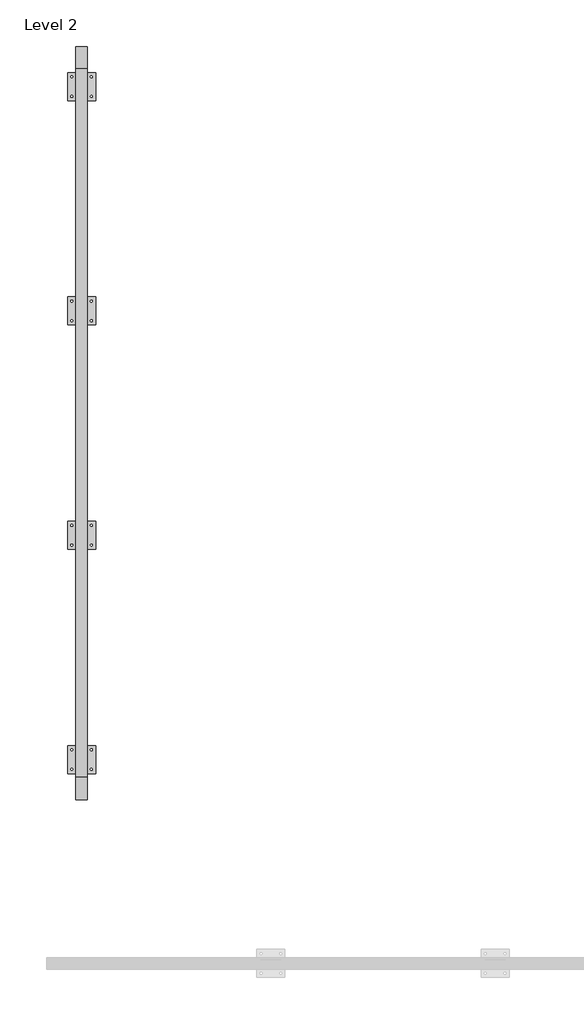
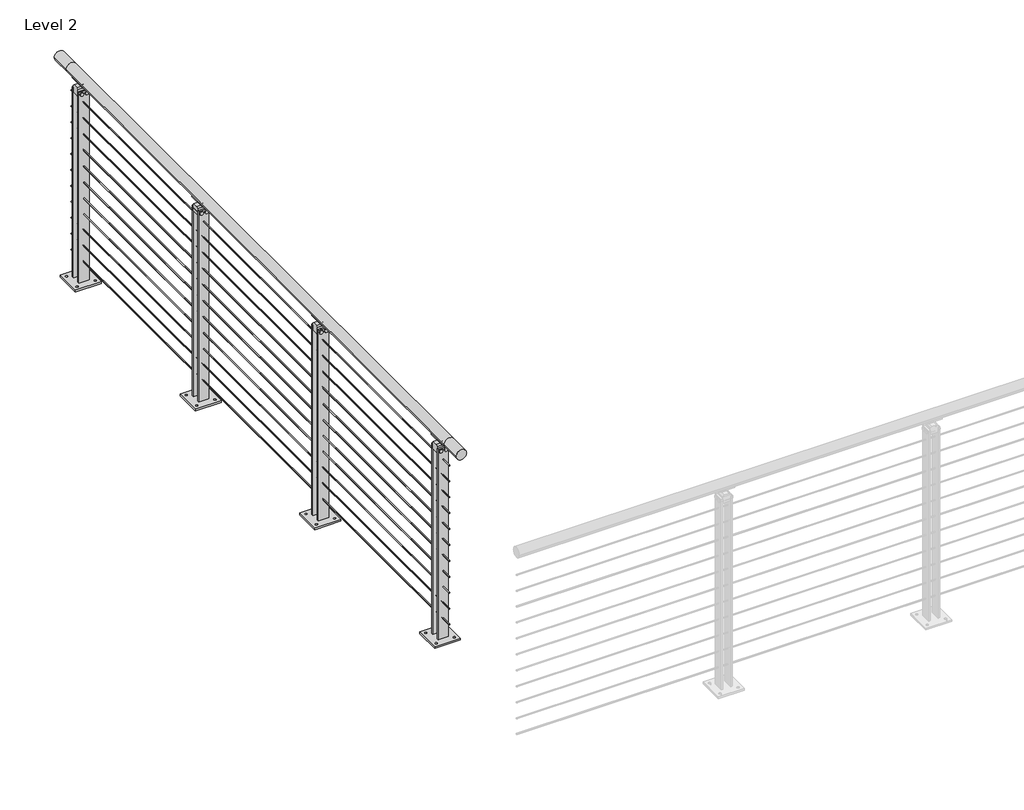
# One storey, part 20 of 31: 1 railing.
"""IFC4 building model written with IfcOpenShell, lengths in millimetres."""

from ifc_helpers import new_model, si_unit, point, frame, frame_2d, origin, place, context, project, spatial, polyline, circle_curve, trimmed, segment, composite_curve, outline, extrude, element, save
from ifc_brep_helpers import plane_surface, cylinder_surface, revolved_surface, advanced_brep

model = new_model("IFC4")

# Units and contexts
model_context = context("Model", 3, world=origin())
ifc_project = project(units=[si_unit("LENGTHUNIT", "METRE", prefix="MILLI")], contexts=[model_context])

# Site, building, storey
site = spatial("IfcSite", under=ifc_project)
building = spatial("IfcBuilding", under=site)
storey = spatial("IfcBuildingStorey", under=building, Name="Level 2", Elevation=3048.0)

# Railing
placement = place(None, origin())
element("IfcRailing", 1, ObjectType="VIVA-BLADE-Cable-Floor Mount-Straight", at=placement, inside=storey, context=model_context, shape_type="SolidModel", body=[
    advanced_brep(
    [(15627.1572927, -51362.5040223, 4102.1), (15576.3572927, -51362.5040223, 4102.1), (15627.1572927, -51260.9040223, 4102.1), (15576.3572927, -51260.9040223, 4102.1), (15627.1572927, -48053.4426165, 4102.1), (15576.3572927, -48053.4426165, 4102.1), (15627.1572927, -47951.8426165, 4102.1), (15576.3572927, -47951.8426165, 4102.1)],
    [
        (0, 1, circle_curve(frame((15601.7572927, -51362.5040223, 4102.1), z_axis=(0.0, -1.0, 0.0), x_axis=(-1.0, 0.0, 0.0)), 25.4)),
        (1, 0, circle_curve(frame((15601.7572927, -51362.5040223, 4102.1), z_axis=(0.0, -1.0, 0.0), x_axis=(-1.0, 0.0, 0.0)), 25.4)),
        (0, 2),
        (2, 3, circle_curve(frame((15601.7572927, -51260.9040223, 4102.1), z_axis=(0.0, -1.0, 0.0), x_axis=(-1.0, 0.0, 0.0)), 25.4)),
        (3, 1),
        (3, 2, circle_curve(frame((15601.7572927, -51260.9040223, 4102.1), z_axis=(0.0, -1.0, 0.0), x_axis=(-1.0, 0.0, 0.0)), 25.4)),
        (2, 4),
        (4, 5, circle_curve(frame((15601.7572927, -48053.4426165, 4102.1), z_axis=(0.0, -1.0, 0.0), x_axis=(-1.0, 0.0, 0.0)), 25.4)),
        (5, 3),
        (5, 4, circle_curve(frame((15601.7572927, -48053.4426165, 4102.1), z_axis=(0.0, -1.0, 0.0), x_axis=(-1.0, 0.0, 0.0)), 25.4)),
        (6, 7, circle_curve(frame((15601.7572927, -47951.8426165, 4102.1), z_axis=(0.0, 1.0, 0.0), x_axis=(-1.0, 0.0, 0.0)), 25.4)),
        (7, 6, circle_curve(frame((15601.7572927, -47951.8426165, 4102.1), z_axis=(0.0, 1.0, 0.0), x_axis=(-1.0, 0.0, 0.0)), 25.4)),
        (4, 6),
        (7, 5),
    ],
    [
        plane_surface(frame((15601.7572927, -51362.5040223, 4127.5), z_axis=(0.0, -1.0, 0.0), x_axis=(0.0, 0.0, 1.0))),
        cylinder_surface(frame((15601.7572927, -51362.5040223, 4102.1), z_axis=(0.0, -1.0, 0.0), x_axis=(-1.0, 0.0, 0.0)), 25.4),
        cylinder_surface(frame((15601.7572927, -51260.9040223, 4102.1), z_axis=(0.0, -1.0, 0.0), x_axis=(-1.0, 0.0, 0.0)), 25.4),
        plane_surface(frame((15601.7572927, -47951.8426165, 4127.5), z_axis=(0.0, 1.0, 0.0), x_axis=(0.0, 0.0, 1.0))),
        cylinder_surface(frame((15601.7572927, -48053.4426165, 4102.1), z_axis=(0.0, -1.0, 0.0), x_axis=(-1.0, 0.0, 0.0)), 25.4),
    ],
    [
        (0, [[1, 2]]),
        (1, [[-1, 3, 4, 5]]),
        (1, [[-2, -5, 6, -3]]),
        (2, [[-4, 7, 8, 9]]),
        (2, [[-6, -9, 10, -7]]),
        (3, [[11, 12]]),
        (4, [[-8, 13, -12, 14]]),
        (4, [[-10, -14, -11, -13]]),
    ],
),
    extrude(outline(composite_curve([segment(trimmed(circle_curve(frame_2d((3985.4124, 15601.7572927)), 2.3876), [point((3985.4124, 15604.1448927))], [point((3985.4124, 15599.3696927))], False, "CARTESIAN"), True, "CONTINUOUS"), segment(trimmed(circle_curve(frame_2d((3985.4124, 15601.7572927)), 2.3876), [point((3985.4124, 15599.3696927))], [point((3985.4124, 15604.1448927))], False, "CARTESIAN"), True, "CONTINUOUS")], self_intersect=False)), frame((0.0, -51260.9040223, 0.0), z_axis=(0.0, 1.0, 0.0), x_axis=(0.0, 0.0, 1.0)), (0.0, 0.0, 1.0), 3207.4614057),
    extrude(outline(composite_curve([segment(trimmed(circle_curve(frame_2d((3902.8624, 15601.7572927)), 2.3876), [point((3902.8624, 15604.1448927))], [point((3902.8624, 15599.3696927))], False, "CARTESIAN"), True, "CONTINUOUS"), segment(trimmed(circle_curve(frame_2d((3902.8624, 15601.7572927)), 2.3876), [point((3902.8624, 15599.3696927))], [point((3902.8624, 15604.1448927))], False, "CARTESIAN"), True, "CONTINUOUS")], self_intersect=False)), frame((0.0, -51260.9040223, 0.0), z_axis=(0.0, 1.0, 0.0), x_axis=(0.0, 0.0, 1.0)), (0.0, 0.0, 1.0), 3207.4614057),
    extrude(outline(composite_curve([segment(trimmed(circle_curve(frame_2d((3820.3124, 15601.7572927)), 2.3876), [point((3820.3124, 15604.1448927))], [point((3820.3124, 15599.3696927))], False, "CARTESIAN"), True, "CONTINUOUS"), segment(trimmed(circle_curve(frame_2d((3820.3124, 15601.7572927)), 2.3876), [point((3820.3124, 15599.3696927))], [point((3820.3124, 15604.1448927))], False, "CARTESIAN"), True, "CONTINUOUS")], self_intersect=False)), frame((0.0, -51260.9040223, 0.0), z_axis=(0.0, 1.0, 0.0), x_axis=(0.0, 0.0, 1.0)), (0.0, 0.0, 1.0), 3207.4614057),
    extrude(outline(composite_curve([segment(trimmed(circle_curve(frame_2d((3737.7624, 15601.7572927)), 2.3876), [point((3737.7624, 15604.1448927))], [point((3737.7624, 15599.3696927))], False, "CARTESIAN"), True, "CONTINUOUS"), segment(trimmed(circle_curve(frame_2d((3737.7624, 15601.7572927)), 2.3876), [point((3737.7624, 15599.3696927))], [point((3737.7624, 15604.1448927))], False, "CARTESIAN"), True, "CONTINUOUS")], self_intersect=False)), frame((0.0, -51260.9040223, 0.0), z_axis=(0.0, 1.0, 0.0), x_axis=(0.0, 0.0, 1.0)), (0.0, 0.0, 1.0), 3207.4614057),
    extrude(outline(composite_curve([segment(trimmed(circle_curve(frame_2d((3655.2124, 15601.7572927)), 2.3876), [point((3655.2124, 15604.1448927))], [point((3655.2124, 15599.3696927))], False, "CARTESIAN"), True, "CONTINUOUS"), segment(trimmed(circle_curve(frame_2d((3655.2124, 15601.7572927)), 2.3876), [point((3655.2124, 15599.3696927))], [point((3655.2124, 15604.1448927))], False, "CARTESIAN"), True, "CONTINUOUS")], self_intersect=False)), frame((0.0, -51260.9040223, 0.0), z_axis=(0.0, 1.0, 0.0), x_axis=(0.0, 0.0, 1.0)), (0.0, 0.0, 1.0), 3207.4614057),
    extrude(outline(composite_curve([segment(trimmed(circle_curve(frame_2d((3572.6624, 15601.7572927)), 2.3876), [point((3572.6624, 15604.1448927))], [point((3572.6624, 15599.3696927))], False, "CARTESIAN"), True, "CONTINUOUS"), segment(trimmed(circle_curve(frame_2d((3572.6624, 15601.7572927)), 2.3876), [point((3572.6624, 15599.3696927))], [point((3572.6624, 15604.1448927))], False, "CARTESIAN"), True, "CONTINUOUS")], self_intersect=False)), frame((0.0, -51260.9040223, 0.0), z_axis=(0.0, 1.0, 0.0), x_axis=(0.0, 0.0, 1.0)), (0.0, 0.0, 1.0), 3207.4614057),
    extrude(outline(composite_curve([segment(trimmed(circle_curve(frame_2d((3490.1124, 15601.7572927)), 2.3876), [point((3490.1124, 15604.1448927))], [point((3490.1124, 15599.3696927))], False, "CARTESIAN"), True, "CONTINUOUS"), segment(trimmed(circle_curve(frame_2d((3490.1124, 15601.7572927)), 2.3876), [point((3490.1124, 15599.3696927))], [point((3490.1124, 15604.1448927))], False, "CARTESIAN"), True, "CONTINUOUS")], self_intersect=False)), frame((0.0, -51260.9040223, 0.0), z_axis=(0.0, 1.0, 0.0), x_axis=(0.0, 0.0, 1.0)), (0.0, 0.0, 1.0), 3207.4614057),
    extrude(outline(composite_curve([segment(trimmed(circle_curve(frame_2d((3407.5624, 15601.7572927)), 2.3876), [point((3407.5624, 15604.1448927))], [point((3407.5624, 15599.3696927))], False, "CARTESIAN"), True, "CONTINUOUS"), segment(trimmed(circle_curve(frame_2d((3407.5624, 15601.7572927)), 2.3876), [point((3407.5624, 15599.3696927))], [point((3407.5624, 15604.1448927))], False, "CARTESIAN"), True, "CONTINUOUS")], self_intersect=False)), frame((0.0, -51260.9040223, 0.0), z_axis=(0.0, 1.0, 0.0), x_axis=(0.0, 0.0, 1.0)), (0.0, 0.0, 1.0), 3207.4614057),
    extrude(outline(composite_curve([segment(trimmed(circle_curve(frame_2d((3325.0124, 15601.7572927)), 2.3876), [point((3325.0124, 15604.1448927))], [point((3325.0124, 15599.3696927))], False, "CARTESIAN"), True, "CONTINUOUS"), segment(trimmed(circle_curve(frame_2d((3325.0124, 15601.7572927)), 2.3876), [point((3325.0124, 15599.3696927))], [point((3325.0124, 15604.1448927))], False, "CARTESIAN"), True, "CONTINUOUS")], self_intersect=False)), frame((0.0, -51260.9040223, 0.0), z_axis=(0.0, 1.0, 0.0), x_axis=(0.0, 0.0, 1.0)), (0.0, 0.0, 1.0), 3207.4614057),
    extrude(outline(composite_curve([segment(trimmed(circle_curve(frame_2d((3242.4624, 15601.7572927)), 2.3876), [point((3242.4624, 15604.1448927))], [point((3242.4624, 15599.3696927))], False, "CARTESIAN"), True, "CONTINUOUS"), segment(trimmed(circle_curve(frame_2d((3242.4624, 15601.7572927)), 2.3876), [point((3242.4624, 15599.3696927))], [point((3242.4624, 15604.1448927))], False, "CARTESIAN"), True, "CONTINUOUS")], self_intersect=False)), frame((0.0, -51260.9040223, 0.0), z_axis=(0.0, 1.0, 0.0), x_axis=(0.0, 0.0, 1.0)), (0.0, 0.0, 1.0), 3207.4614057),
    extrude(outline(composite_curve([segment(trimmed(circle_curve(frame_2d((3159.9124, 15601.7572927)), 2.3876), [point((3159.9124, 15604.1448927))], [point((3159.9124, 15599.3696927))], False, "CARTESIAN"), True, "CONTINUOUS"), segment(trimmed(circle_curve(frame_2d((3159.9124, 15601.7572927)), 2.3876), [point((3159.9124, 15599.3696927))], [point((3159.9124, 15604.1448927))], False, "CARTESIAN"), True, "CONTINUOUS")], self_intersect=False)), frame((0.0, -51260.9040223, 0.0), z_axis=(0.0, 1.0, 0.0), x_axis=(0.0, 0.0, 1.0)), (0.0, 0.0, 1.0), 3207.4614057),
    advanced_brep(
    [(15614.5174163, -48087.9359194, 4080.0967655), (15618.3533137, -48087.9359194, 4075.707533), (15586.8364215, -48087.9359194, 4075.1267745), (15589.6453518, -48087.9359194, 4079.9535285), (15614.5174163, -48178.4107194, 4080.0967655), (15589.5583797, -48178.4107194, 4080.0018447), (15586.7226281, -48178.4107194, 4075.1893964), (15618.3533137, -48178.4107194, 4075.707533)],
    [
        (0, 1, circle_curve(frame((15616.064974, -48087.9359194, 4077.5784521), z_axis=(0.0, 1.0, 0.0), x_axis=(1.0, 0.0, 0.0)), 2.9558141)),
        (1, 2, circle_curve(frame((15602.0870765, -48087.9359194, 4102.9742164), z_axis=(0.0, 1.0, 0.0), x_axis=(1.0, 0.0, 0.0)), 31.75)),
        (2, 3, circle_curve(frame((15588.3137265, -48087.9359194, 4077.4993599), z_axis=(0.0, 1.0, 0.0), x_axis=(1.0, 0.0, 0.0)), 2.7949225)),
        (3, 0, circle_curve(frame((15601.9536134, -48087.9359194, 4102.2115898), z_axis=(0.0, -1.0, 0.0), x_axis=(1.0, 0.0, 0.0)), 25.4345159)),
        (4, 5, circle_curve(frame((15601.9536134, -48178.4107194, 4102.2115898), z_axis=(0.0, 1.0, 0.0), x_axis=(1.0, 0.0, 0.0)), 25.4345159)),
        (5, 6, circle_curve(frame((15588.3137265, -48178.4107194, 4077.4993599), z_axis=(0.0, -1.0, 0.0), x_axis=(1.0, 0.0, 0.0)), 2.7949225)),
        (6, 7, circle_curve(frame((15602.0870765, -48178.4107194, 4102.9742164), z_axis=(0.0, -1.0, 0.0), x_axis=(1.0, 0.0, 0.0)), 31.75)),
        (7, 4, circle_curve(frame((15616.064974, -48178.4107194, 4077.5784521), z_axis=(0.0, -1.0, 0.0), x_axis=(1.0, 0.0, 0.0)), 2.9558141)),
        (3, 5),
        (4, 0),
        (2, 6),
        (1, 7),
    ],
    [
        plane_surface(frame((15627.3881293, -48087.9359194, 4102.2115898), z_axis=(0.0, 1.0, 0.0), x_axis=(0.0, 0.0, -1.0))),
        plane_surface(frame((15627.3881293, -48178.4107194, 4102.2115898), z_axis=(0.0, -1.0, 0.0), x_axis=(0.0, 0.0, 1.0))),
        revolved_surface(polyline([(15627.388129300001, -48178.4107194, 4102.2115898), (15627.388129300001, -48087.9359194, 4102.2115898)]), (15601.9536134, -48178.4107194, 4102.2115898), (0.0, -1.0, 0.0)),
        cylinder_surface(frame((15588.3137265, -48178.4107194, 4077.4993599), z_axis=(0.0, 1.0, 0.0), x_axis=(1.0, 0.0, 0.0)), 2.7949225),
        cylinder_surface(frame((15602.0870765, -48178.4107194, 4102.9742164), z_axis=(0.0, 1.0, 0.0), x_axis=(1.0, 0.0, 0.0)), 31.75),
        cylinder_surface(frame((15616.064974, -48178.4107194, 4077.5784521), z_axis=(0.0, 1.0, 0.0), x_axis=(1.0, 0.0, 0.0)), 2.9558141),
    ],
    [
        (0, [[1, 2, 3, 4]]),
        (1, [[5, 6, 7, 8]]),
        (2, [[9, -5, 10, -4]]),
        (3, [[11, -6, -9, -3]]),
        (4, [[12, -7, -11, -2]]),
        (5, [[-10, -8, -12, -1]]),
    ],
),
    extrude(outline(composite_curve([segment(polyline([(-48120.4733194, 4062.4125), (-48145.8733194, 4062.4125)]), True, "CONTINUOUS"), segment(trimmed(circle_curve(frame_2d((-48160.2412343, 4062.4125)), 14.3679149), [point((-48145.8733194, 4062.4125))], [point((-48160.2412343, 4076.7804149))], True, "CARTESIAN"), True, "CONTINUOUS"), segment(polyline([(-48160.2412343, 4076.7804149), (-48106.1054045, 4076.7804149)]), True, "CONTINUOUS"), segment(trimmed(circle_curve(frame_2d((-48106.1054045, 4062.4125)), 14.3679149), [point((-48106.1054045, 4076.7804149))], [point((-48120.4733194, 4062.4125))], True, "CARTESIAN"), True, "CONTINUOUS")], self_intersect=False)), frame((15599.2172927, 0.0, 0.0), z_axis=(1.0, 0.0, 0.0), x_axis=(0.0, 1.0, 0.0)), (0.0, 0.0, 1.0), 5.08),
    extrude(outline(polyline([(15538.2584868, -48069.6852563), (15665.2560986, -48069.6852563), (15665.2560986, -48196.6852563), (15538.2584868, -48196.6852563), (15538.2584868, -48069.6852563)]), holes=[composite_curve([segment(trimmed(circle_curve(frame_2d((15557.3084868, -48177.6352563)), 4.7625), [point((15552.5459868, -48177.6352563))], [point((15562.0709868, -48177.6352563))], True, "CARTESIAN"), True, "CONTINUOUS"), segment(trimmed(circle_curve(frame_2d((15557.3084868, -48177.6352563)), 4.7625), [point((15562.0709868, -48177.6352563))], [point((15552.5459868, -48177.6352563))], True, "CARTESIAN"), True, "CONTINUOUS")], self_intersect=False), composite_curve([segment(trimmed(circle_curve(frame_2d((15646.2060986, -48177.6352563)), 4.7625), [point((15641.4435986, -48177.6352563))], [point((15650.9685986, -48177.6352563))], True, "CARTESIAN"), True, "CONTINUOUS"), segment(trimmed(circle_curve(frame_2d((15646.2060986, -48177.6352563)), 4.7625), [point((15650.9685986, -48177.6352563))], [point((15641.4435986, -48177.6352563))], True, "CARTESIAN"), True, "CONTINUOUS")], self_intersect=False), composite_curve([segment(trimmed(circle_curve(frame_2d((15646.2060986, -48088.7352563)), 4.7625), [point((15641.4435986, -48088.7352563))], [point((15650.9685986, -48088.7352563))], True, "CARTESIAN"), True, "CONTINUOUS"), segment(trimmed(circle_curve(frame_2d((15646.2060986, -48088.7352563)), 4.7625), [point((15650.9685986, -48088.7352563))], [point((15641.4435986, -48088.7352563))], True, "CARTESIAN"), True, "CONTINUOUS")], self_intersect=False), composite_curve([segment(trimmed(circle_curve(frame_2d((15557.3084868, -48088.7352563)), 4.7625), [point((15552.5459868, -48088.7352563))], [point((15562.0709868, -48088.7352563))], True, "CARTESIAN"), True, "CONTINUOUS"), segment(trimmed(circle_curve(frame_2d((15557.3084868, -48088.7352563)), 4.7625), [point((15562.0709868, -48088.7352563))], [point((15552.5459868, -48088.7352563))], True, "CARTESIAN"), True, "CONTINUOUS")], self_intersect=False)]), frame((0.0, 0.0, 3048.0), z_axis=(0.0, 0.0, 1.0), x_axis=(1.0, 0.0, 0.0)), (0.0, 0.0, 1.0), 9.525),
    extrude(outline(polyline([(15627.1570894, -48160.2481551), (15576.3547647, -48160.2481551), (15576.3547647, -48152.2233194), (15627.1570894, -48152.2233194), (15627.1570894, -48160.2481551)])), frame((0.0, 0.0, 3048.0), z_axis=(0.0, 0.0, 1.0), x_axis=(1.0, 0.0, 0.0)), (0.0, 0.0, 1.0), 996.95),
    extrude(outline(composite_curve([segment(trimmed(circle_curve(frame_2d((4034.0416929, 15589.0548158)), 8.89), [point((4034.0416929, 15580.1648158))], [point((4034.0416929, 15597.9448158))], False, "CARTESIAN"), True, "CONTINUOUS"), segment(trimmed(circle_curve(frame_2d((4034.0416929, 15589.0548158)), 8.89), [point((4034.0416929, 15597.9448158))], [point((4034.0416929, 15580.1648158))], False, "CARTESIAN"), True, "CONTINUOUS")], self_intersect=False)), frame((0.0, -48164.9233194, 0.0), z_axis=(0.0, 1.0, 0.0), x_axis=(0.0, 0.0, 1.0)), (0.0, 0.0, 1.0), 63.4880631),
    extrude(outline(composite_curve([segment(trimmed(circle_curve(frame_2d((4034.0416929, 15614.4547137)), 8.89), [point((4034.0416929, 15605.5647137))], [point((4034.0416929, 15623.3447137))], False, "CARTESIAN"), True, "CONTINUOUS"), segment(trimmed(circle_curve(frame_2d((4034.0416929, 15614.4547137)), 8.89), [point((4034.0416929, 15623.3447137))], [point((4034.0416929, 15605.5647137))], False, "CARTESIAN"), True, "CONTINUOUS")], self_intersect=False)), frame((0.0, -48164.9233194, 0.0), z_axis=(0.0, 1.0, 0.0), x_axis=(0.0, 0.0, 1.0)), (0.0, 0.0, 1.0), 63.4880631),
    extrude(outline(polyline([(-48152.2233194, 4022.7123), (-48152.2233194, 4056.0625), (-48145.8733194, 4062.4125), (-48120.4733194, 4062.4125), (-48114.1233194, 4056.0625), (-48114.1233194, 4022.7123), (-48152.2233194, 4022.7123)])), frame((15576.3547647, 0.0, 0.0), z_axis=(1.0, 0.0, 0.0), x_axis=(0.0, 1.0, 0.0)), (0.0, 0.0, 1.0), 50.8025279),
    extrude(outline(polyline([(15627.1570894, -48114.1233574), (15576.3547647, -48114.1233574), (15576.3547647, -48106.1223574), (15627.1570894, -48106.1223574), (15627.1570894, -48114.1233574)])), frame((0.0, 0.0, 3048.0), z_axis=(0.0, 0.0, 1.0), x_axis=(1.0, 0.0, 0.0)), (0.0, 0.0, 1.0), 996.95),
    advanced_brep(
    [(15614.5174163, -49103.9359194, 4080.0967655), (15618.3533137, -49103.9359194, 4075.707533), (15586.8364215, -49103.9359194, 4075.1267745), (15589.6453518, -49103.9359194, 4079.9535285), (15614.5174163, -49194.4107194, 4080.0967655), (15589.5583797, -49194.4107194, 4080.0018447), (15586.7226281, -49194.4107194, 4075.1893964), (15618.3533137, -49194.4107194, 4075.707533)],
    [
        (0, 1, circle_curve(frame((15616.064974, -49103.9359194, 4077.5784521), z_axis=(0.0, 1.0, 0.0), x_axis=(1.0, 0.0, 0.0)), 2.9558141)),
        (1, 2, circle_curve(frame((15602.0870765, -49103.9359194, 4102.9742164), z_axis=(0.0, 1.0, 0.0), x_axis=(1.0, 0.0, 0.0)), 31.75)),
        (2, 3, circle_curve(frame((15588.3137265, -49103.9359194, 4077.4993599), z_axis=(0.0, 1.0, 0.0), x_axis=(1.0, 0.0, 0.0)), 2.7949225)),
        (3, 0, circle_curve(frame((15601.9536134, -49103.9359194, 4102.2115898), z_axis=(0.0, -1.0, 0.0), x_axis=(1.0, 0.0, 0.0)), 25.4345159)),
        (4, 5, circle_curve(frame((15601.9536134, -49194.4107194, 4102.2115898), z_axis=(0.0, 1.0, 0.0), x_axis=(1.0, 0.0, 0.0)), 25.4345159)),
        (5, 6, circle_curve(frame((15588.3137265, -49194.4107194, 4077.4993599), z_axis=(0.0, -1.0, 0.0), x_axis=(1.0, 0.0, 0.0)), 2.7949225)),
        (6, 7, circle_curve(frame((15602.0870765, -49194.4107194, 4102.9742164), z_axis=(0.0, -1.0, 0.0), x_axis=(1.0, 0.0, 0.0)), 31.75)),
        (7, 4, circle_curve(frame((15616.064974, -49194.4107194, 4077.5784521), z_axis=(0.0, -1.0, 0.0), x_axis=(1.0, 0.0, 0.0)), 2.9558141)),
        (3, 5),
        (4, 0),
        (2, 6),
        (1, 7),
    ],
    [
        plane_surface(frame((15627.3881293, -49103.9359194, 4102.2115898), z_axis=(0.0, 1.0, 0.0), x_axis=(0.0, 0.0, -1.0))),
        plane_surface(frame((15627.3881293, -49194.4107194, 4102.2115898), z_axis=(0.0, -1.0, 0.0), x_axis=(0.0, 0.0, 1.0))),
        revolved_surface(polyline([(15627.388129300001, -49194.4107194, 4102.2115898), (15627.388129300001, -49103.9359194, 4102.2115898)]), (15601.9536134, -49194.4107194, 4102.2115898), (0.0, -1.0, 0.0)),
        cylinder_surface(frame((15588.3137265, -49194.4107194, 4077.4993599), z_axis=(0.0, 1.0, 0.0), x_axis=(1.0, 0.0, 0.0)), 2.7949225),
        cylinder_surface(frame((15602.0870765, -49194.4107194, 4102.9742164), z_axis=(0.0, 1.0, 0.0), x_axis=(1.0, 0.0, 0.0)), 31.75),
        cylinder_surface(frame((15616.064974, -49194.4107194, 4077.5784521), z_axis=(0.0, 1.0, 0.0), x_axis=(1.0, 0.0, 0.0)), 2.9558141),
    ],
    [
        (0, [[1, 2, 3, 4]]),
        (1, [[5, 6, 7, 8]]),
        (2, [[9, -5, 10, -4]]),
        (3, [[11, -6, -9, -3]]),
        (4, [[12, -7, -11, -2]]),
        (5, [[-10, -8, -12, -1]]),
    ],
),
    extrude(outline(composite_curve([segment(polyline([(-49136.4733194, 4062.4125), (-49161.8733194, 4062.4125)]), True, "CONTINUOUS"), segment(trimmed(circle_curve(frame_2d((-49176.2412343, 4062.4125)), 14.3679149), [point((-49161.8733194, 4062.4125))], [point((-49176.2412343, 4076.7804149))], True, "CARTESIAN"), True, "CONTINUOUS"), segment(polyline([(-49176.2412343, 4076.7804149), (-49122.1054045, 4076.7804149)]), True, "CONTINUOUS"), segment(trimmed(circle_curve(frame_2d((-49122.1054045, 4062.4125)), 14.3679149), [point((-49122.1054045, 4076.7804149))], [point((-49136.4733194, 4062.4125))], True, "CARTESIAN"), True, "CONTINUOUS")], self_intersect=False)), frame((15599.2172927, 0.0, 0.0), z_axis=(1.0, 0.0, 0.0), x_axis=(0.0, 1.0, 0.0)), (0.0, 0.0, 1.0), 5.08),
    extrude(outline(polyline([(15538.2584868, -49085.6852563), (15665.2560986, -49085.6852563), (15665.2560986, -49212.6852563), (15538.2584868, -49212.6852563), (15538.2584868, -49085.6852563)]), holes=[composite_curve([segment(trimmed(circle_curve(frame_2d((15557.3084868, -49193.6352563)), 4.7625), [point((15552.5459868, -49193.6352563))], [point((15562.0709868, -49193.6352563))], True, "CARTESIAN"), True, "CONTINUOUS"), segment(trimmed(circle_curve(frame_2d((15557.3084868, -49193.6352563)), 4.7625), [point((15562.0709868, -49193.6352563))], [point((15552.5459868, -49193.6352563))], True, "CARTESIAN"), True, "CONTINUOUS")], self_intersect=False), composite_curve([segment(trimmed(circle_curve(frame_2d((15646.2060986, -49193.6352563)), 4.7625), [point((15641.4435986, -49193.6352563))], [point((15650.9685986, -49193.6352563))], True, "CARTESIAN"), True, "CONTINUOUS"), segment(trimmed(circle_curve(frame_2d((15646.2060986, -49193.6352563)), 4.7625), [point((15650.9685986, -49193.6352563))], [point((15641.4435986, -49193.6352563))], True, "CARTESIAN"), True, "CONTINUOUS")], self_intersect=False), composite_curve([segment(trimmed(circle_curve(frame_2d((15646.2060986, -49104.7352563)), 4.7625), [point((15641.4435986, -49104.7352563))], [point((15650.9685986, -49104.7352563))], True, "CARTESIAN"), True, "CONTINUOUS"), segment(trimmed(circle_curve(frame_2d((15646.2060986, -49104.7352563)), 4.7625), [point((15650.9685986, -49104.7352563))], [point((15641.4435986, -49104.7352563))], True, "CARTESIAN"), True, "CONTINUOUS")], self_intersect=False), composite_curve([segment(trimmed(circle_curve(frame_2d((15557.3084868, -49104.7352563)), 4.7625), [point((15552.5459868, -49104.7352563))], [point((15562.0709868, -49104.7352563))], True, "CARTESIAN"), True, "CONTINUOUS"), segment(trimmed(circle_curve(frame_2d((15557.3084868, -49104.7352563)), 4.7625), [point((15562.0709868, -49104.7352563))], [point((15552.5459868, -49104.7352563))], True, "CARTESIAN"), True, "CONTINUOUS")], self_intersect=False)]), frame((0.0, 0.0, 3048.0), z_axis=(0.0, 0.0, 1.0), x_axis=(1.0, 0.0, 0.0)), (0.0, 0.0, 1.0), 9.525),
    extrude(outline(polyline([(15627.1570894, -49176.2481551), (15576.3547647, -49176.2481551), (15576.3547647, -49168.2233194), (15627.1570894, -49168.2233194), (15627.1570894, -49176.2481551)])), frame((0.0, 0.0, 3048.0), z_axis=(0.0, 0.0, 1.0), x_axis=(1.0, 0.0, 0.0)), (0.0, 0.0, 1.0), 996.95),
    extrude(outline(composite_curve([segment(trimmed(circle_curve(frame_2d((4034.0416929, 15589.0548158)), 8.89), [point((4034.0416929, 15580.1648158))], [point((4034.0416929, 15597.9448158))], False, "CARTESIAN"), True, "CONTINUOUS"), segment(trimmed(circle_curve(frame_2d((4034.0416929, 15589.0548158)), 8.89), [point((4034.0416929, 15597.9448158))], [point((4034.0416929, 15580.1648158))], False, "CARTESIAN"), True, "CONTINUOUS")], self_intersect=False)), frame((0.0, -49180.9233194, 0.0), z_axis=(0.0, 1.0, 0.0), x_axis=(0.0, 0.0, 1.0)), (0.0, 0.0, 1.0), 63.4880631),
    extrude(outline(composite_curve([segment(trimmed(circle_curve(frame_2d((4034.0416929, 15614.4547137)), 8.89), [point((4034.0416929, 15605.5647137))], [point((4034.0416929, 15623.3447137))], False, "CARTESIAN"), True, "CONTINUOUS"), segment(trimmed(circle_curve(frame_2d((4034.0416929, 15614.4547137)), 8.89), [point((4034.0416929, 15623.3447137))], [point((4034.0416929, 15605.5647137))], False, "CARTESIAN"), True, "CONTINUOUS")], self_intersect=False)), frame((0.0, -49180.9233194, 0.0), z_axis=(0.0, 1.0, 0.0), x_axis=(0.0, 0.0, 1.0)), (0.0, 0.0, 1.0), 63.4880631),
    extrude(outline(polyline([(-49168.2233194, 4022.7123), (-49168.2233194, 4056.0625), (-49161.8733194, 4062.4125), (-49136.4733194, 4062.4125), (-49130.1233194, 4056.0625), (-49130.1233194, 4022.7123), (-49168.2233194, 4022.7123)])), frame((15576.3547647, 0.0, 0.0), z_axis=(1.0, 0.0, 0.0), x_axis=(0.0, 1.0, 0.0)), (0.0, 0.0, 1.0), 50.8025279),
    extrude(outline(polyline([(15627.1570894, -49130.1233574), (15576.3547647, -49130.1233574), (15576.3547647, -49122.1223574), (15627.1570894, -49122.1223574), (15627.1570894, -49130.1233574)])), frame((0.0, 0.0, 3048.0), z_axis=(0.0, 0.0, 1.0), x_axis=(1.0, 0.0, 0.0)), (0.0, 0.0, 1.0), 996.95),
    advanced_brep(
    [(15614.5174163, -50119.9359194, 4080.0967655), (15618.3533137, -50119.9359194, 4075.707533), (15586.8364215, -50119.9359194, 4075.1267745), (15589.6453518, -50119.9359194, 4079.9535285), (15614.5174163, -50210.4107194, 4080.0967655), (15589.5583797, -50210.4107194, 4080.0018447), (15586.7226281, -50210.4107194, 4075.1893964), (15618.3533137, -50210.4107194, 4075.707533)],
    [
        (0, 1, circle_curve(frame((15616.064974, -50119.9359194, 4077.5784521), z_axis=(0.0, 1.0, 0.0), x_axis=(1.0, 0.0, 0.0)), 2.9558141)),
        (1, 2, circle_curve(frame((15602.0870765, -50119.9359194, 4102.9742164), z_axis=(0.0, 1.0, 0.0), x_axis=(1.0, 0.0, 0.0)), 31.75)),
        (2, 3, circle_curve(frame((15588.3137265, -50119.9359194, 4077.4993599), z_axis=(0.0, 1.0, 0.0), x_axis=(1.0, 0.0, 0.0)), 2.7949225)),
        (3, 0, circle_curve(frame((15601.9536134, -50119.9359194, 4102.2115898), z_axis=(0.0, -1.0, 0.0), x_axis=(1.0, 0.0, 0.0)), 25.4345159)),
        (4, 5, circle_curve(frame((15601.9536134, -50210.4107194, 4102.2115898), z_axis=(0.0, 1.0, 0.0), x_axis=(1.0, 0.0, 0.0)), 25.4345159)),
        (5, 6, circle_curve(frame((15588.3137265, -50210.4107194, 4077.4993599), z_axis=(0.0, -1.0, 0.0), x_axis=(1.0, 0.0, 0.0)), 2.7949225)),
        (6, 7, circle_curve(frame((15602.0870765, -50210.4107194, 4102.9742164), z_axis=(0.0, -1.0, 0.0), x_axis=(1.0, 0.0, 0.0)), 31.75)),
        (7, 4, circle_curve(frame((15616.064974, -50210.4107194, 4077.5784521), z_axis=(0.0, -1.0, 0.0), x_axis=(1.0, 0.0, 0.0)), 2.9558141)),
        (3, 5),
        (4, 0),
        (2, 6),
        (1, 7),
    ],
    [
        plane_surface(frame((15627.3881293, -50119.9359194, 4102.2115898), z_axis=(0.0, 1.0, 0.0), x_axis=(0.0, 0.0, -1.0))),
        plane_surface(frame((15627.3881293, -50210.4107194, 4102.2115898), z_axis=(0.0, -1.0, 0.0), x_axis=(0.0, 0.0, 1.0))),
        revolved_surface(polyline([(15627.388129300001, -50210.4107194, 4102.2115898), (15627.388129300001, -50119.9359194, 4102.2115898)]), (15601.9536134, -50210.4107194, 4102.2115898), (0.0, -1.0, 0.0)),
        cylinder_surface(frame((15588.3137265, -50210.4107194, 4077.4993599), z_axis=(0.0, 1.0, 0.0), x_axis=(1.0, 0.0, 0.0)), 2.7949225),
        cylinder_surface(frame((15602.0870765, -50210.4107194, 4102.9742164), z_axis=(0.0, 1.0, 0.0), x_axis=(1.0, 0.0, 0.0)), 31.75),
        cylinder_surface(frame((15616.064974, -50210.4107194, 4077.5784521), z_axis=(0.0, 1.0, 0.0), x_axis=(1.0, 0.0, 0.0)), 2.9558141),
    ],
    [
        (0, [[1, 2, 3, 4]]),
        (1, [[5, 6, 7, 8]]),
        (2, [[9, -5, 10, -4]]),
        (3, [[11, -6, -9, -3]]),
        (4, [[12, -7, -11, -2]]),
        (5, [[-10, -8, -12, -1]]),
    ],
),
    extrude(outline(composite_curve([segment(polyline([(-50152.4733194, 4062.4125), (-50177.8733194, 4062.4125)]), True, "CONTINUOUS"), segment(trimmed(circle_curve(frame_2d((-50192.2412343, 4062.4125)), 14.3679149), [point((-50177.8733194, 4062.4125))], [point((-50192.2412343, 4076.7804149))], True, "CARTESIAN"), True, "CONTINUOUS"), segment(polyline([(-50192.2412343, 4076.7804149), (-50138.1054045, 4076.7804149)]), True, "CONTINUOUS"), segment(trimmed(circle_curve(frame_2d((-50138.1054045, 4062.4125)), 14.3679149), [point((-50138.1054045, 4076.7804149))], [point((-50152.4733194, 4062.4125))], True, "CARTESIAN"), True, "CONTINUOUS")], self_intersect=False)), frame((15599.2172927, 0.0, 0.0), z_axis=(1.0, 0.0, 0.0), x_axis=(0.0, 1.0, 0.0)), (0.0, 0.0, 1.0), 5.08),
    extrude(outline(polyline([(15538.2584868, -50101.6852563), (15665.2560986, -50101.6852563), (15665.2560986, -50228.6852563), (15538.2584868, -50228.6852563), (15538.2584868, -50101.6852563)]), holes=[composite_curve([segment(trimmed(circle_curve(frame_2d((15557.3084868, -50209.6352563)), 4.7625), [point((15552.5459868, -50209.6352563))], [point((15562.0709868, -50209.6352563))], True, "CARTESIAN"), True, "CONTINUOUS"), segment(trimmed(circle_curve(frame_2d((15557.3084868, -50209.6352563)), 4.7625), [point((15562.0709868, -50209.6352563))], [point((15552.5459868, -50209.6352563))], True, "CARTESIAN"), True, "CONTINUOUS")], self_intersect=False), composite_curve([segment(trimmed(circle_curve(frame_2d((15646.2060986, -50209.6352563)), 4.7625), [point((15641.4435986, -50209.6352563))], [point((15650.9685986, -50209.6352563))], True, "CARTESIAN"), True, "CONTINUOUS"), segment(trimmed(circle_curve(frame_2d((15646.2060986, -50209.6352563)), 4.7625), [point((15650.9685986, -50209.6352563))], [point((15641.4435986, -50209.6352563))], True, "CARTESIAN"), True, "CONTINUOUS")], self_intersect=False), composite_curve([segment(trimmed(circle_curve(frame_2d((15646.2060986, -50120.7352563)), 4.7625), [point((15641.4435986, -50120.7352563))], [point((15650.9685986, -50120.7352563))], True, "CARTESIAN"), True, "CONTINUOUS"), segment(trimmed(circle_curve(frame_2d((15646.2060986, -50120.7352563)), 4.7625), [point((15650.9685986, -50120.7352563))], [point((15641.4435986, -50120.7352563))], True, "CARTESIAN"), True, "CONTINUOUS")], self_intersect=False), composite_curve([segment(trimmed(circle_curve(frame_2d((15557.3084868, -50120.7352563)), 4.7625), [point((15552.5459868, -50120.7352563))], [point((15562.0709868, -50120.7352563))], True, "CARTESIAN"), True, "CONTINUOUS"), segment(trimmed(circle_curve(frame_2d((15557.3084868, -50120.7352563)), 4.7625), [point((15562.0709868, -50120.7352563))], [point((15552.5459868, -50120.7352563))], True, "CARTESIAN"), True, "CONTINUOUS")], self_intersect=False)]), frame((0.0, 0.0, 3048.0), z_axis=(0.0, 0.0, 1.0), x_axis=(1.0, 0.0, 0.0)), (0.0, 0.0, 1.0), 9.525),
    extrude(outline(polyline([(15627.1570894, -50192.2481551), (15576.3547647, -50192.2481551), (15576.3547647, -50184.2233194), (15627.1570894, -50184.2233194), (15627.1570894, -50192.2481551)])), frame((0.0, 0.0, 3048.0), z_axis=(0.0, 0.0, 1.0), x_axis=(1.0, 0.0, 0.0)), (0.0, 0.0, 1.0), 996.95),
    extrude(outline(composite_curve([segment(trimmed(circle_curve(frame_2d((4034.0416929, 15589.0548158)), 8.89), [point((4034.0416929, 15580.1648158))], [point((4034.0416929, 15597.9448158))], False, "CARTESIAN"), True, "CONTINUOUS"), segment(trimmed(circle_curve(frame_2d((4034.0416929, 15589.0548158)), 8.89), [point((4034.0416929, 15597.9448158))], [point((4034.0416929, 15580.1648158))], False, "CARTESIAN"), True, "CONTINUOUS")], self_intersect=False)), frame((0.0, -50196.9233194, 0.0), z_axis=(0.0, 1.0, 0.0), x_axis=(0.0, 0.0, 1.0)), (0.0, 0.0, 1.0), 63.4880631),
    extrude(outline(composite_curve([segment(trimmed(circle_curve(frame_2d((4034.0416929, 15614.4547137)), 8.89), [point((4034.0416929, 15605.5647137))], [point((4034.0416929, 15623.3447137))], False, "CARTESIAN"), True, "CONTINUOUS"), segment(trimmed(circle_curve(frame_2d((4034.0416929, 15614.4547137)), 8.89), [point((4034.0416929, 15623.3447137))], [point((4034.0416929, 15605.5647137))], False, "CARTESIAN"), True, "CONTINUOUS")], self_intersect=False)), frame((0.0, -50196.9233194, 0.0), z_axis=(0.0, 1.0, 0.0), x_axis=(0.0, 0.0, 1.0)), (0.0, 0.0, 1.0), 63.4880631),
    extrude(outline(polyline([(-50184.2233194, 4022.7123), (-50184.2233194, 4056.0625), (-50177.8733194, 4062.4125), (-50152.4733194, 4062.4125), (-50146.1233194, 4056.0625), (-50146.1233194, 4022.7123), (-50184.2233194, 4022.7123)])), frame((15576.3547647, 0.0, 0.0), z_axis=(1.0, 0.0, 0.0), x_axis=(0.0, 1.0, 0.0)), (0.0, 0.0, 1.0), 50.8025279),
    extrude(outline(polyline([(15627.1570894, -50146.1233574), (15576.3547647, -50146.1233574), (15576.3547647, -50138.1223574), (15627.1570894, -50138.1223574), (15627.1570894, -50146.1233574)])), frame((0.0, 0.0, 3048.0), z_axis=(0.0, 0.0, 1.0), x_axis=(1.0, 0.0, 0.0)), (0.0, 0.0, 1.0), 996.95),
    advanced_brep(
    [(15614.5174163, -51135.9359194, 4080.0967655), (15618.3533137, -51135.9359194, 4075.707533), (15586.8364215, -51135.9359194, 4075.1267745), (15589.6453518, -51135.9359194, 4079.9535285), (15614.5174163, -51226.4107194, 4080.0967655), (15589.5583797, -51226.4107194, 4080.0018447), (15586.7226281, -51226.4107194, 4075.1893964), (15618.3533137, -51226.4107194, 4075.707533)],
    [
        (0, 1, circle_curve(frame((15616.064974, -51135.9359194, 4077.5784521), z_axis=(0.0, 1.0, 0.0), x_axis=(1.0, 0.0, 0.0)), 2.9558141)),
        (1, 2, circle_curve(frame((15602.0870765, -51135.9359194, 4102.9742164), z_axis=(0.0, 1.0, 0.0), x_axis=(1.0, 0.0, 0.0)), 31.75)),
        (2, 3, circle_curve(frame((15588.3137265, -51135.9359194, 4077.4993599), z_axis=(0.0, 1.0, 0.0), x_axis=(1.0, 0.0, 0.0)), 2.7949225)),
        (3, 0, circle_curve(frame((15601.9536134, -51135.9359194, 4102.2115898), z_axis=(0.0, -1.0, 0.0), x_axis=(1.0, 0.0, 0.0)), 25.4345159)),
        (4, 5, circle_curve(frame((15601.9536134, -51226.4107194, 4102.2115898), z_axis=(0.0, 1.0, 0.0), x_axis=(1.0, 0.0, 0.0)), 25.4345159)),
        (5, 6, circle_curve(frame((15588.3137265, -51226.4107194, 4077.4993599), z_axis=(0.0, -1.0, 0.0), x_axis=(1.0, 0.0, 0.0)), 2.7949225)),
        (6, 7, circle_curve(frame((15602.0870765, -51226.4107194, 4102.9742164), z_axis=(0.0, -1.0, 0.0), x_axis=(1.0, 0.0, 0.0)), 31.75)),
        (7, 4, circle_curve(frame((15616.064974, -51226.4107194, 4077.5784521), z_axis=(0.0, -1.0, 0.0), x_axis=(1.0, 0.0, 0.0)), 2.9558141)),
        (3, 5),
        (4, 0),
        (2, 6),
        (1, 7),
    ],
    [
        plane_surface(frame((15627.3881293, -51135.9359194, 4102.2115898), z_axis=(0.0, 1.0, 0.0), x_axis=(0.0, 0.0, -1.0))),
        plane_surface(frame((15627.3881293, -51226.4107194, 4102.2115898), z_axis=(0.0, -1.0, 0.0), x_axis=(0.0, 0.0, 1.0))),
        revolved_surface(polyline([(15627.388129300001, -51226.4107194, 4102.2115898), (15627.388129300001, -51135.9359194, 4102.2115898)]), (15601.9536134, -51226.4107194, 4102.2115898), (0.0, -1.0, 0.0)),
        cylinder_surface(frame((15588.3137265, -51226.4107194, 4077.4993599), z_axis=(0.0, 1.0, 0.0), x_axis=(1.0, 0.0, 0.0)), 2.7949225),
        cylinder_surface(frame((15602.0870765, -51226.4107194, 4102.9742164), z_axis=(0.0, 1.0, 0.0), x_axis=(1.0, 0.0, 0.0)), 31.75),
        cylinder_surface(frame((15616.064974, -51226.4107194, 4077.5784521), z_axis=(0.0, 1.0, 0.0), x_axis=(1.0, 0.0, 0.0)), 2.9558141),
    ],
    [
        (0, [[1, 2, 3, 4]]),
        (1, [[5, 6, 7, 8]]),
        (2, [[9, -5, 10, -4]]),
        (3, [[11, -6, -9, -3]]),
        (4, [[12, -7, -11, -2]]),
        (5, [[-10, -8, -12, -1]]),
    ],
),
    extrude(outline(composite_curve([segment(polyline([(-51168.4733194, 4062.4125), (-51193.8733194, 4062.4125)]), True, "CONTINUOUS"), segment(trimmed(circle_curve(frame_2d((-51208.2412343, 4062.4125)), 14.3679149), [point((-51193.8733194, 4062.4125))], [point((-51208.2412343, 4076.7804149))], True, "CARTESIAN"), True, "CONTINUOUS"), segment(polyline([(-51208.2412343, 4076.7804149), (-51154.1054045, 4076.7804149)]), True, "CONTINUOUS"), segment(trimmed(circle_curve(frame_2d((-51154.1054045, 4062.4125)), 14.3679149), [point((-51154.1054045, 4076.7804149))], [point((-51168.4733194, 4062.4125))], True, "CARTESIAN"), True, "CONTINUOUS")], self_intersect=False)), frame((15599.2172927, 0.0, 0.0), z_axis=(1.0, 0.0, 0.0), x_axis=(0.0, 1.0, 0.0)), (0.0, 0.0, 1.0), 5.08),
    extrude(outline(polyline([(15538.2584868, -51117.6852563), (15665.2560986, -51117.6852563), (15665.2560986, -51244.6852563), (15538.2584868, -51244.6852563), (15538.2584868, -51117.6852563)]), holes=[composite_curve([segment(trimmed(circle_curve(frame_2d((15557.3084868, -51225.6352563)), 4.7625), [point((15552.5459868, -51225.6352563))], [point((15562.0709868, -51225.6352563))], True, "CARTESIAN"), True, "CONTINUOUS"), segment(trimmed(circle_curve(frame_2d((15557.3084868, -51225.6352563)), 4.7625), [point((15562.0709868, -51225.6352563))], [point((15552.5459868, -51225.6352563))], True, "CARTESIAN"), True, "CONTINUOUS")], self_intersect=False), composite_curve([segment(trimmed(circle_curve(frame_2d((15646.2060986, -51225.6352563)), 4.7625), [point((15641.4435986, -51225.6352563))], [point((15650.9685986, -51225.6352563))], True, "CARTESIAN"), True, "CONTINUOUS"), segment(trimmed(circle_curve(frame_2d((15646.2060986, -51225.6352563)), 4.7625), [point((15650.9685986, -51225.6352563))], [point((15641.4435986, -51225.6352563))], True, "CARTESIAN"), True, "CONTINUOUS")], self_intersect=False), composite_curve([segment(trimmed(circle_curve(frame_2d((15646.2060986, -51136.7352563)), 4.7625), [point((15641.4435986, -51136.7352563))], [point((15650.9685986, -51136.7352563))], True, "CARTESIAN"), True, "CONTINUOUS"), segment(trimmed(circle_curve(frame_2d((15646.2060986, -51136.7352563)), 4.7625), [point((15650.9685986, -51136.7352563))], [point((15641.4435986, -51136.7352563))], True, "CARTESIAN"), True, "CONTINUOUS")], self_intersect=False), composite_curve([segment(trimmed(circle_curve(frame_2d((15557.3084868, -51136.7352563)), 4.7625), [point((15552.5459868, -51136.7352563))], [point((15562.0709868, -51136.7352563))], True, "CARTESIAN"), True, "CONTINUOUS"), segment(trimmed(circle_curve(frame_2d((15557.3084868, -51136.7352563)), 4.7625), [point((15562.0709868, -51136.7352563))], [point((15552.5459868, -51136.7352563))], True, "CARTESIAN"), True, "CONTINUOUS")], self_intersect=False)]), frame((0.0, 0.0, 3048.0), z_axis=(0.0, 0.0, 1.0), x_axis=(1.0, 0.0, 0.0)), (0.0, 0.0, 1.0), 9.525),
    extrude(outline(polyline([(15627.1570894, -51208.2481551), (15576.3547647, -51208.2481551), (15576.3547647, -51200.2233194), (15627.1570894, -51200.2233194), (15627.1570894, -51208.2481551)])), frame((0.0, 0.0, 3048.0), z_axis=(0.0, 0.0, 1.0), x_axis=(1.0, 0.0, 0.0)), (0.0, 0.0, 1.0), 996.95),
    extrude(outline(composite_curve([segment(trimmed(circle_curve(frame_2d((4034.0416929, 15589.0548158)), 8.89), [point((4034.0416929, 15580.1648158))], [point((4034.0416929, 15597.9448158))], False, "CARTESIAN"), True, "CONTINUOUS"), segment(trimmed(circle_curve(frame_2d((4034.0416929, 15589.0548158)), 8.89), [point((4034.0416929, 15597.9448158))], [point((4034.0416929, 15580.1648158))], False, "CARTESIAN"), True, "CONTINUOUS")], self_intersect=False)), frame((0.0, -51212.9233194, 0.0), z_axis=(0.0, 1.0, 0.0), x_axis=(0.0, 0.0, 1.0)), (0.0, 0.0, 1.0), 63.4880631),
    extrude(outline(composite_curve([segment(trimmed(circle_curve(frame_2d((4034.0416929, 15614.4547137)), 8.89), [point((4034.0416929, 15605.5647137))], [point((4034.0416929, 15623.3447137))], False, "CARTESIAN"), True, "CONTINUOUS"), segment(trimmed(circle_curve(frame_2d((4034.0416929, 15614.4547137)), 8.89), [point((4034.0416929, 15623.3447137))], [point((4034.0416929, 15605.5647137))], False, "CARTESIAN"), True, "CONTINUOUS")], self_intersect=False)), frame((0.0, -51212.9233194, 0.0), z_axis=(0.0, 1.0, 0.0), x_axis=(0.0, 0.0, 1.0)), (0.0, 0.0, 1.0), 63.4880631),
    extrude(outline(polyline([(-51200.2233194, 4022.7123), (-51200.2233194, 4056.0625), (-51193.8733194, 4062.4125), (-51168.4733194, 4062.4125), (-51162.1233194, 4056.0625), (-51162.1233194, 4022.7123), (-51200.2233194, 4022.7123)])), frame((15576.3547647, 0.0, 0.0), z_axis=(1.0, 0.0, 0.0), x_axis=(0.0, 1.0, 0.0)), (0.0, 0.0, 1.0), 50.8025279),
    extrude(outline(polyline([(15627.1570894, -51162.1233574), (15576.3547647, -51162.1233574), (15576.3547647, -51154.1223574), (15627.1570894, -51154.1223574), (15627.1570894, -51162.1233574)])), frame((0.0, 0.0, 3048.0), z_axis=(0.0, 0.0, 1.0), x_axis=(1.0, 0.0, 0.0)), (0.0, 0.0, 1.0), 996.95),
])

save(model, "model.ifc")
